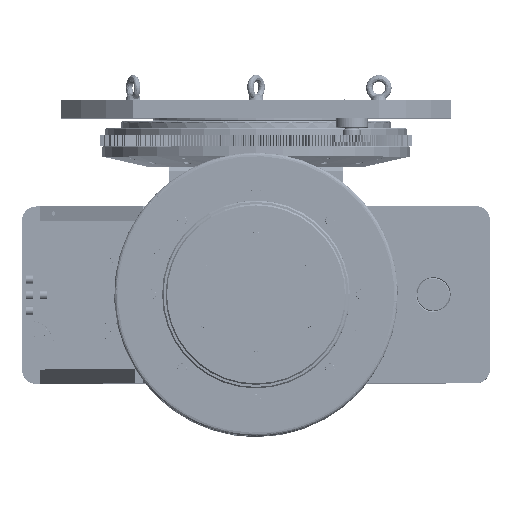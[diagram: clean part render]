
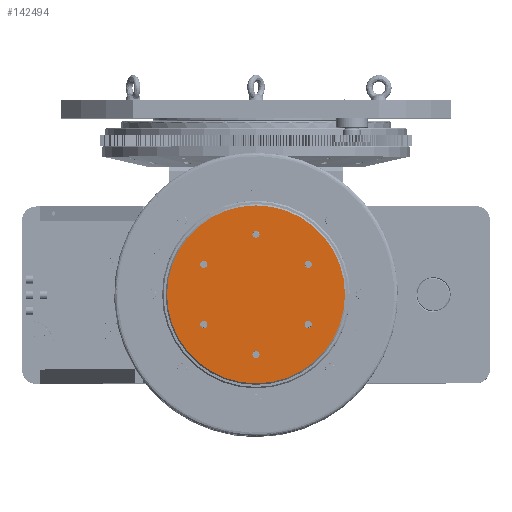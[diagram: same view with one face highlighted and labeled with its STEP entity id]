
A CAD part, top view. The second image highlights one B-rep face of the part: STEP entity #142494.
In plain terms, the highlighted planar face has unit normal (0, 0, 1).
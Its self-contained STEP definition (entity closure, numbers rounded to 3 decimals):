
#39272 = CARTESIAN_POINT ( 'NONE',  ( 0., 0., 251.5 ) ) ;
#39274 = DIRECTION ( 'NONE',  ( 0., 0., -1. ) ) ;
#39277 = DIRECTION ( 'NONE',  ( 0., 1., 0. ) ) ;
#39309 = CARTESIAN_POINT ( 'NONE',  ( 73.612, 42.5, 251.5 ) ) ;
#39312 = DIRECTION ( 'NONE',  ( 0., 0., 1. ) ) ;
#39315 = DIRECTION ( 'NONE',  ( 0., -1., 0. ) ) ;
#39342 = CARTESIAN_POINT ( 'NONE',  ( 73.612, -42.5, 251.5 ) ) ;
#39344 = DIRECTION ( 'NONE',  ( 0., 0., 1. ) ) ;
#39346 = DIRECTION ( 'NONE',  ( 0., -1., 0. ) ) ;
#39373 = CARTESIAN_POINT ( 'NONE',  ( 0., -85., 251.5 ) ) ;
#39375 = DIRECTION ( 'NONE',  ( 0., 0., 1. ) ) ;
#39378 = DIRECTION ( 'NONE',  ( 0., -1., 0. ) ) ;
#39401 = CARTESIAN_POINT ( 'NONE',  ( -73.612, -42.5, 251.5 ) ) ;
#39404 = DIRECTION ( 'NONE',  ( 0., 0., 1. ) ) ;
#39407 = DIRECTION ( 'NONE',  ( 0., -1., 0. ) ) ;
#39435 = CARTESIAN_POINT ( 'NONE',  ( -73.612, 42.5, 251.5 ) ) ;
#39438 = DIRECTION ( 'NONE',  ( 0., 0., 1. ) ) ;
#39441 = DIRECTION ( 'NONE',  ( 0., -1., 0. ) ) ;
#39468 = CARTESIAN_POINT ( 'NONE',  ( 0., 85., 251.5 ) ) ;
#39471 = DIRECTION ( 'NONE',  ( 0., 0., 1. ) ) ;
#39474 = DIRECTION ( 'NONE',  ( 0., -1., 0. ) ) ;
#41441 = CIRCLE ( 'NONE', #44457, 5. ) ;
#41444 = CIRCLE ( 'NONE', #44462, 5. ) ;
#41447 = CIRCLE ( 'NONE', #44467, 5. ) ;
#41449 = CIRCLE ( 'NONE', #44471, 5. ) ;
#41452 = CIRCLE ( 'NONE', #44475, 5. ) ;
#41455 = CIRCLE ( 'NONE', #44480, 5. ) ;
#41459 = CIRCLE ( 'NONE', #44484, 125.5 ) ;
#44007 = AXIS2_PLACEMENT_3D ( 'NONE', #39272, #39274, #39277 ) ;
#44016 = AXIS2_PLACEMENT_3D ( 'NONE', #39309, #39312, #39315 ) ;
#44024 = AXIS2_PLACEMENT_3D ( 'NONE', #39342, #39344, #39346 ) ;
#44034 = AXIS2_PLACEMENT_3D ( 'NONE', #39373, #39375, #39378 ) ;
#44042 = AXIS2_PLACEMENT_3D ( 'NONE', #39401, #39404, #39407 ) ;
#44052 = AXIS2_PLACEMENT_3D ( 'NONE', #39435, #39438, #39441 ) ;
#44062 = AXIS2_PLACEMENT_3D ( 'NONE', #39468, #39471, #39474 ) ;
#44457 = AXIS2_PLACEMENT_3D ( 'NONE', #46279, #46283, #46287 ) ;
#44462 = AXIS2_PLACEMENT_3D ( 'NONE', #46295, #46299, #46303 ) ;
#44467 = AXIS2_PLACEMENT_3D ( 'NONE', #46312, #46315, #46318 ) ;
#44471 = AXIS2_PLACEMENT_3D ( 'NONE', #46328, #46331, #46335 ) ;
#44475 = AXIS2_PLACEMENT_3D ( 'NONE', #46343, #46347, #46351 ) ;
#44480 = AXIS2_PLACEMENT_3D ( 'NONE', #46359, #46363, #46367 ) ;
#44484 = AXIS2_PLACEMENT_3D ( 'NONE', #46376, #46380, #46382 ) ;
#46279 = CARTESIAN_POINT ( 'NONE',  ( 0., 85., 251.5 ) ) ;
#46283 = DIRECTION ( 'NONE',  ( 0., 0., 1. ) ) ;
#46287 = DIRECTION ( 'NONE',  ( 0., -1., 0. ) ) ;
#46295 = CARTESIAN_POINT ( 'NONE',  ( -73.612, 42.5, 251.5 ) ) ;
#46299 = DIRECTION ( 'NONE',  ( 0., 0., 1. ) ) ;
#46303 = DIRECTION ( 'NONE',  ( 0., -1., 0. ) ) ;
#46312 = CARTESIAN_POINT ( 'NONE',  ( -73.612, -42.5, 251.5 ) ) ;
#46315 = DIRECTION ( 'NONE',  ( 0., 0., 1. ) ) ;
#46318 = DIRECTION ( 'NONE',  ( 0., -1., 0. ) ) ;
#46328 = CARTESIAN_POINT ( 'NONE',  ( 0., -85., 251.5 ) ) ;
#46331 = DIRECTION ( 'NONE',  ( 0., 0., 1. ) ) ;
#46335 = DIRECTION ( 'NONE',  ( 0., -1., 0. ) ) ;
#46343 = CARTESIAN_POINT ( 'NONE',  ( 73.612, -42.5, 251.5 ) ) ;
#46347 = DIRECTION ( 'NONE',  ( 0., 0., 1. ) ) ;
#46351 = DIRECTION ( 'NONE',  ( 0., -1., 0. ) ) ;
#46359 = CARTESIAN_POINT ( 'NONE',  ( 73.612, 42.5, 251.5 ) ) ;
#46363 = DIRECTION ( 'NONE',  ( 0., 0., 1. ) ) ;
#46367 = DIRECTION ( 'NONE',  ( 0., -1., 0. ) ) ;
#46376 = CARTESIAN_POINT ( 'NONE',  ( 0., 0., 251.5 ) ) ;
#46380 = DIRECTION ( 'NONE',  ( 0., 0., -1. ) ) ;
#46382 = DIRECTION ( 'NONE',  ( 0., 1., 0. ) ) ;
#48985 = ORIENTED_EDGE ( 'NONE', *, *, #182083, .F. ) ;
#48987 = ORIENTED_EDGE ( 'NONE', *, *, #182848, .F. ) ;
#48989 = ORIENTED_EDGE ( 'NONE', *, *, #182846, .F. ) ;
#48991 = ORIENTED_EDGE ( 'NONE', *, *, #182102, .F. ) ;
#48992 = ORIENTED_EDGE ( 'NONE', *, *, #182843, .F. ) ;
#48993 = ORIENTED_EDGE ( 'NONE', *, *, #182119, .F. ) ;
#48994 = ORIENTED_EDGE ( 'NONE', *, *, #182842, .F. ) ;
#48996 = ORIENTED_EDGE ( 'NONE', *, *, #182135, .F. ) ;
#48998 = ORIENTED_EDGE ( 'NONE', *, *, #182840, .F. ) ;
#49000 = ORIENTED_EDGE ( 'NONE', *, *, #182150, .F. ) ;
#49002 = ORIENTED_EDGE ( 'NONE', *, *, #182837, .F. ) ;
#49004 = ORIENTED_EDGE ( 'NONE', *, *, #182166, .F. ) ;
#49006 = ORIENTED_EDGE ( 'NONE', *, *, #182835, .F. ) ;
#49007 = ORIENTED_EDGE ( 'NONE', *, *, #182181, .F. ) ;
#69807 = CIRCLE ( 'NONE', #44007, 125.5 ) ;
#69855 = CIRCLE ( 'NONE', #44016, 5. ) ;
#69877 = CIRCLE ( 'NONE', #44024, 5. ) ;
#69899 = CIRCLE ( 'NONE', #44034, 5. ) ;
#69921 = CIRCLE ( 'NONE', #44042, 5. ) ;
#69942 = CIRCLE ( 'NONE', #44052, 5. ) ;
#69964 = CIRCLE ( 'NONE', #44062, 5. ) ;
#86780 = AXIS2_PLACEMENT_3D ( 'NONE', #206473, #206470, #206487 ) ;
#90252 = FACE_BOUND ( 'NONE', #214078, .T. ) ;
#90617 = FACE_BOUND ( 'NONE', #213201, .T. ) ;
#90632 = FACE_OUTER_BOUND ( 'NONE', #212283, .T. ) ;
#90636 = FACE_BOUND ( 'NONE', #214297, .T. ) ;
#90640 = FACE_BOUND ( 'NONE', #214458, .T. ) ;
#90641 = FACE_BOUND ( 'NONE', #212331, .T. ) ;
#90642 = FACE_BOUND ( 'NONE', #213619, .T. ) ;
#116445 = CARTESIAN_POINT ( 'NONE',  ( 0., 125.5, 251.5 ) ) ;
#116507 = CARTESIAN_POINT ( 'NONE',  ( 0., -125.5, 251.5 ) ) ;
#116518 = CARTESIAN_POINT ( 'NONE',  ( 73.612, 47.5, 251.5 ) ) ;
#116519 = CARTESIAN_POINT ( 'NONE',  ( 73.612, 37.5, 251.5 ) ) ;
#116525 = CARTESIAN_POINT ( 'NONE',  ( 73.612, -37.5, 251.5 ) ) ;
#116527 = CARTESIAN_POINT ( 'NONE',  ( 73.612, -47.5, 251.5 ) ) ;
#116531 = CARTESIAN_POINT ( 'NONE',  ( 0., -80., 251.5 ) ) ;
#116533 = CARTESIAN_POINT ( 'NONE',  ( 0., -90., 251.5 ) ) ;
#116538 = CARTESIAN_POINT ( 'NONE',  ( -73.612, -37.5, 251.5 ) ) ;
#116539 = CARTESIAN_POINT ( 'NONE',  ( -73.612, -47.5, 251.5 ) ) ;
#116544 = CARTESIAN_POINT ( 'NONE',  ( -73.612, 47.5, 251.5 ) ) ;
#116546 = CARTESIAN_POINT ( 'NONE',  ( -73.612, 37.5, 251.5 ) ) ;
#116551 = CARTESIAN_POINT ( 'NONE',  ( 0., 90., 251.5 ) ) ;
#116552 = CARTESIAN_POINT ( 'NONE',  ( 0., 80., 251.5 ) ) ;
#140119 = VERTEX_POINT ( 'NONE', #116445 ) ;
#140150 = VERTEX_POINT ( 'NONE', #116507 ) ;
#140156 = VERTEX_POINT ( 'NONE', #116518 ) ;
#140157 = VERTEX_POINT ( 'NONE', #116519 ) ;
#140160 = VERTEX_POINT ( 'NONE', #116525 ) ;
#140161 = VERTEX_POINT ( 'NONE', #116527 ) ;
#140164 = VERTEX_POINT ( 'NONE', #116531 ) ;
#140165 = VERTEX_POINT ( 'NONE', #116533 ) ;
#140168 = VERTEX_POINT ( 'NONE', #116538 ) ;
#140169 = VERTEX_POINT ( 'NONE', #116539 ) ;
#140172 = VERTEX_POINT ( 'NONE', #116544 ) ;
#140173 = VERTEX_POINT ( 'NONE', #116546 ) ;
#140176 = VERTEX_POINT ( 'NONE', #116551 ) ;
#140177 = VERTEX_POINT ( 'NONE', #116552 ) ;
#142494 = ADVANCED_FACE ( 'NONE', ( #90632, #90640, #90252, #90617, #90636, #90641, #90642 ), #206481, .F. ) ;
#182083 = EDGE_CURVE ( 'NONE', #140119, #140150, #69807, .T. ) ;
#182102 = EDGE_CURVE ( 'NONE', #140156, #140157, #69855, .T. ) ;
#182119 = EDGE_CURVE ( 'NONE', #140160, #140161, #69877, .T. ) ;
#182135 = EDGE_CURVE ( 'NONE', #140164, #140165, #69899, .T. ) ;
#182150 = EDGE_CURVE ( 'NONE', #140168, #140169, #69921, .T. ) ;
#182166 = EDGE_CURVE ( 'NONE', #140172, #140173, #69942, .T. ) ;
#182181 = EDGE_CURVE ( 'NONE', #140176, #140177, #69964, .T. ) ;
#182835 = EDGE_CURVE ( 'NONE', #140177, #140176, #41441, .T. ) ;
#182837 = EDGE_CURVE ( 'NONE', #140173, #140172, #41444, .T. ) ;
#182840 = EDGE_CURVE ( 'NONE', #140169, #140168, #41447, .T. ) ;
#182842 = EDGE_CURVE ( 'NONE', #140165, #140164, #41449, .T. ) ;
#182843 = EDGE_CURVE ( 'NONE', #140161, #140160, #41452, .T. ) ;
#182846 = EDGE_CURVE ( 'NONE', #140157, #140156, #41455, .T. ) ;
#182848 = EDGE_CURVE ( 'NONE', #140150, #140119, #41459, .T. ) ;
#206470 = DIRECTION ( 'NONE',  ( 0., 0., -1. ) ) ;
#206473 = CARTESIAN_POINT ( 'NONE',  ( 0., 0., 251.5 ) ) ;
#206481 = PLANE ( 'NONE',  #86780 ) ;
#206487 = DIRECTION ( 'NONE',  ( 0., 1., 0. ) ) ;
#212283 = EDGE_LOOP ( 'NONE', ( #48985, #48987 ) ) ;
#212331 = EDGE_LOOP ( 'NONE', ( #49002, #49004 ) ) ;
#213201 = EDGE_LOOP ( 'NONE', ( #48994, #48996 ) ) ;
#213619 = EDGE_LOOP ( 'NONE', ( #49006, #49007 ) ) ;
#214078 = EDGE_LOOP ( 'NONE', ( #48992, #48993 ) ) ;
#214297 = EDGE_LOOP ( 'NONE', ( #48998, #49000 ) ) ;
#214458 = EDGE_LOOP ( 'NONE', ( #48989, #48991 ) ) ;
